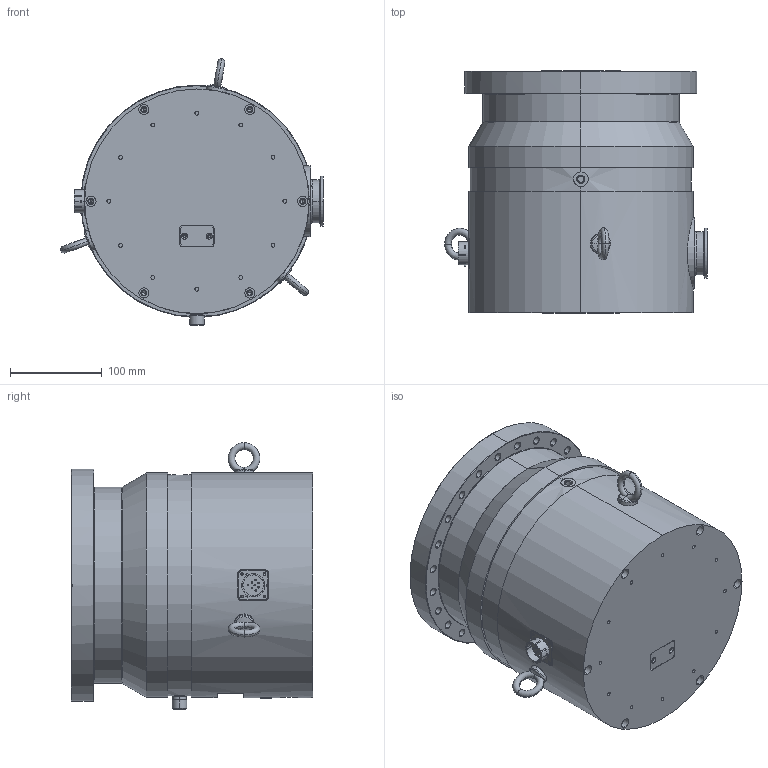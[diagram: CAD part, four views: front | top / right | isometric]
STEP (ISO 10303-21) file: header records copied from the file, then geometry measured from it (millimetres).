
FILE_DESCRIPTION (( 'STEP AP214' ), '1' );
FILE_NAME ('19553.STEP', '2014-08-21T07:02:58', ( '' ), ( '' ), 'SwSTEP 2.0', 'SolidWorks 2014', '' );
FILE_SCHEMA (( 'AUTOMOTIVE_DESIGN' ));
Length unit declared in the file: millimetre
Products named in the file (1): 19553
Bounding box: 286.57 x 263.6 x 290.83 mm (x, y, z)
Volume: 11285056.9 mm3; surface area: 422241.6 mm2
Topology: 7 solids, 28 shells, 910 faces, 2114 edges, 1317 vertices
Faces by surface type: cylinder 421, cone 213, plane 195, bspline 63, torus 18
Entity records: 31813 total; most frequent: CARTESIAN_POINT 10732, DIRECTION 4681, ORIENTED_EDGE 4144, EDGE_CURVE 2072, AXIS2_PLACEMENT_3D 1955, VERTEX_POINT 1317, CIRCLE 1107, EDGE_LOOP 1093
